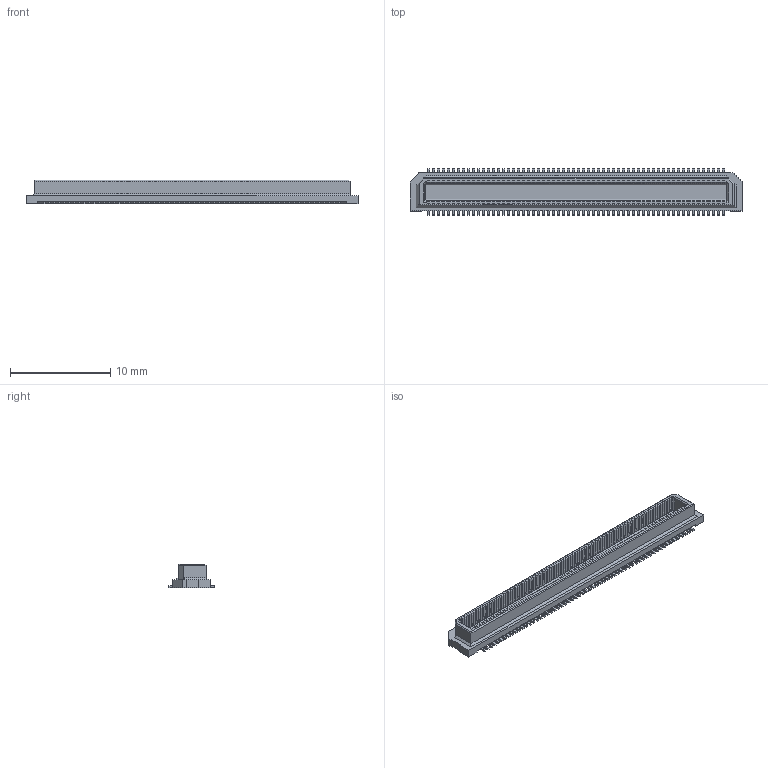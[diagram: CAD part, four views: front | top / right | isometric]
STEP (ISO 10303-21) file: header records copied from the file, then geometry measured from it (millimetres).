
FILE_DESCRIPTION (( 'STEP AP214' ), '1' );
FILE_NAME ('axk6a2347y.stp', '2007-11-01T03:42:50', ( '' ), ( 'PanasonicCorporation' ), '', '', '' );
FILE_SCHEMA (( 'AUTOMOTIVE_DESIGN' ));
Products named in the file (1): axk6a2347y
Bounding box: 33.2 x 4.6 x 2.4 mm (x, y, z)
Volume: 126.5 mm3; surface area: 611 mm2
Topology: 1 solids, 1 shells, 3316 faces, 9076 edges, 5884 vertices
Faces by surface type: plane 3196, cylinder 120
Entity records: 102343 total; most frequent: CARTESIAN_POINT 18277, ORIENTED_EDGE 18152, DIRECTION 15950, EDGE_CURVE 9076, VECTOR 8836, LINE 8836, VERTEX_POINT 5884, AXIS2_PLACEMENT_3D 3557
